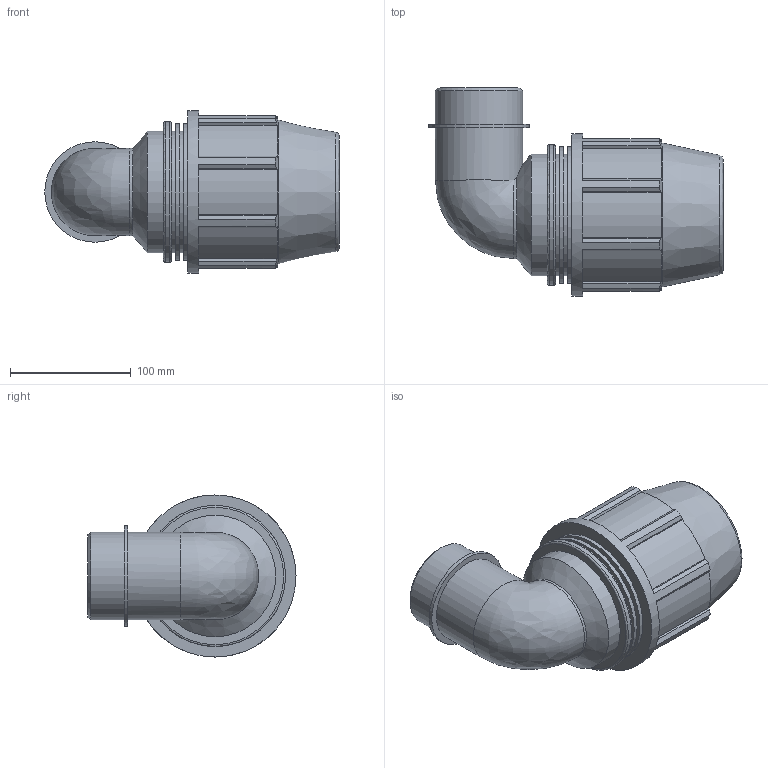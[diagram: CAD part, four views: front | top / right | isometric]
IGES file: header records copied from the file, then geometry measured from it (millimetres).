
Global section: file name: 0785060750250A.ipt; native system: Autodesk Inventor 2015; preprocessor: unknown; author: KIM; date: 20180325.201244; units: millimetre
Bounding box: 243.53 x 172 x 134 mm (x, y, z)
Volume: 1382938.6 mm3; surface area: 180184.7 mm2
Topology: 1 solids, 1 shells, 85 faces, 225 edges, 150 vertices
Faces by surface type: plane 52, cylinder 19, revolution 9, cone 4, bspline 1
Full cylindrical faces by diameter (mm): 72.226 x2, 83.06 x1, 100.5 x3, 113.083 x2, 116.58 x1, 134 x1
